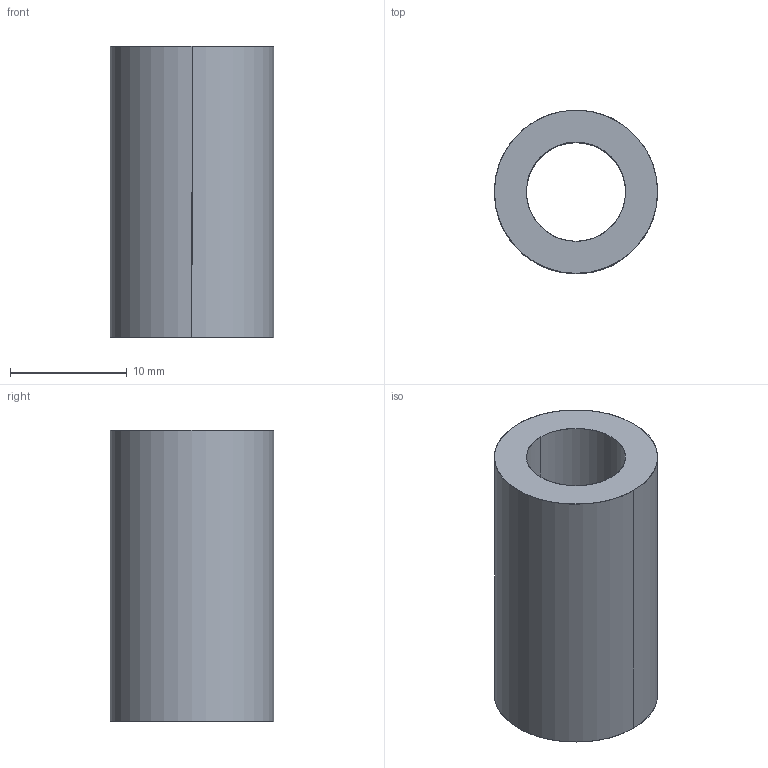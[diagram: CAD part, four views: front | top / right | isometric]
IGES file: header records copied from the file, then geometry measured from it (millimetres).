
Global section: file name: E:\UnigraphicsGraphicData\MISUMI_PRESS-PARTS\IGES\3d_swc14-25_00695_r00.igs; native system: NX V5.0; preprocessor: UGS NX IGES V5.0; author: MISUMI; date: 20110105.163254; units: millimetre
Bounding box: 14 x 14 x 25 mm (x, y, z)
Surface area: 1962.2 mm2 (no closed solid volume)
Topology: 0 solids, 0 shells, 6 faces, 48 edges, 48 vertices
Faces by surface type: bspline 6
